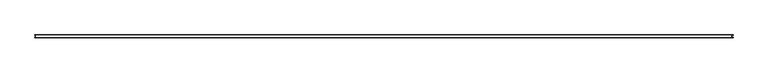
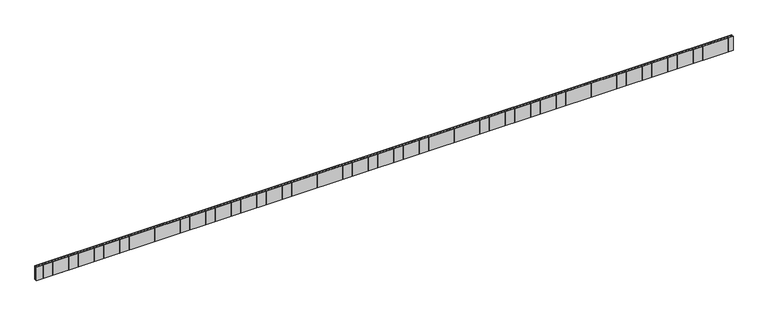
"""IFC4 building model written with IfcOpenShell, lengths in millimetres: proxy geometry, Durabond Generic Soffit Drainage Vent : Durabond Generic Soffit Drainage Vent."""

from ifc_helpers import new_model, si_unit, origin, origin_with_axes, place, context, project, spatial, polyline, outline, extrude, source, transform, mapped, element, save


def generic_models_47e8b319(model_context):
    return source(origin(), model_context, "Body", "SweptSolid", [
        extrude(outline(polyline([(-608.5771001, 0.79375), (-608.5771001, 3.96875), (-609.3708501, 3.96875), (-609.3708501, 4.7625), (609.3708501, 4.7625), (609.3708501, 3.96875), (607.4043986, 3.96875), (607.4043986, 0.79375), (609.3708501, 0.79375), (609.3708501, 0.0), (-609.3708501, 0.0), (-609.3708501, 0.79375), (-608.5771001, 0.79375)]), holes=[polyline([(-603.0029266, 3.96875), (-607.7654266, 3.96875), (-607.7654266, 0.79375), (-603.0029266, 0.79375), (-603.0029266, 3.96875)]), polyline([(-602.1912531, 3.96875), (-602.1912531, 0.79375), (-597.4287531, 0.79375), (-597.4287531, 3.96875), (-602.1912531, 3.96875)]), polyline([(-591.8545796, 3.96875), (-596.6170796, 3.96875), (-596.6170796, 0.79375), (-591.8545796, 0.79375), (-591.8545796, 3.96875)]), polyline([(-591.042906, 3.96875), (-591.042906, 0.79375), (-586.280406, 0.79375), (-586.280406, 3.96875), (-591.042906, 3.96875)]), polyline([(-580.7062325, 3.96875), (-585.4687325, 3.96875), (-585.4687325, 0.79375), (-580.7062325, 0.79375), (-580.7062325, 3.96875)]), polyline([(-579.894559, 3.96875), (-579.894559, 0.79375), (-575.132059, 0.79375), (-575.132059, 3.96875), (-579.894559, 3.96875)]), polyline([(-569.5578855, 3.96875), (-574.3203855, 3.96875), (-574.3203855, 0.79375), (-569.5578855, 0.79375), (-569.5578855, 3.96875)]), polyline([(-568.746212, 3.96875), (-568.746212, 0.79375), (-563.983712, 0.79375), (-563.983712, 3.96875), (-568.746212, 3.96875)]), polyline([(-558.4095385, 3.96875), (-563.1720385, 3.96875), (-563.1720385, 0.79375), (-558.4095385, 0.79375), (-558.4095385, 3.96875)]), polyline([(-557.597865, 3.96875), (-557.597865, 0.79375), (-552.835365, 0.79375), (-552.835365, 3.96875), (-557.597865, 3.96875)]), polyline([(-547.2611915, 3.96875), (-552.0236915, 3.96875), (-552.0236915, 0.79375), (-547.2611915, 0.79375), (-547.2611915, 3.96875)]), polyline([(-546.449518, 3.96875), (-546.449518, 0.79375), (-541.687018, 0.79375), (-541.687018, 3.96875), (-546.449518, 3.96875)]), polyline([(-536.1128445, 3.96875), (-540.8753445, 3.96875), (-540.8753445, 0.79375), (-536.1128445, 0.79375), (-536.1128445, 3.96875)]), polyline([(-535.3011709, 3.96875), (-535.3011709, 0.79375), (-530.5386709, 0.79375), (-530.5386709, 3.96875), (-535.3011709, 3.96875)]), polyline([(-524.9644974, 3.96875), (-529.7269974, 3.96875), (-529.7269974, 0.79375), (-524.9644974, 0.79375), (-524.9644974, 3.96875)]), polyline([(-524.1528239, 3.96875), (-524.1528239, 0.79375), (-519.3903239, 0.79375), (-519.3903239, 3.96875), (-524.1528239, 3.96875)]), polyline([(-513.8161504, 3.96875), (-518.5786504, 3.96875), (-518.5786504, 0.79375), (-513.8161504, 0.79375), (-513.8161504, 3.96875)]), polyline([(-513.0044769, 3.96875), (-513.0044769, 0.79375), (-508.2419769, 0.79375), (-508.2419769, 3.96875), (-513.0044769, 3.96875)]), polyline([(-502.6678034, 3.96875), (-507.4303034, 3.96875), (-507.4303034, 0.79375), (-502.6678034, 0.79375), (-502.6678034, 3.96875)]), polyline([(-501.8561299, 3.96875), (-501.8561299, 0.79375), (-497.0936299, 0.79375), (-497.0936299, 3.96875), (-501.8561299, 3.96875)]), polyline([(-491.5194564, 3.96875), (-496.2819564, 3.96875), (-496.2819564, 0.79375), (-491.5194564, 0.79375), (-491.5194564, 3.96875)]), polyline([(-490.7077829, 3.96875), (-490.7077829, 0.79375), (-485.9452829, 0.79375), (-485.9452829, 3.96875), (-490.7077829, 3.96875)]), polyline([(-480.3711094, 3.96875), (-485.1336094, 3.96875), (-485.1336094, 0.79375), (-480.3711094, 0.79375), (-480.3711094, 3.96875)]), polyline([(-479.5594358, 3.96875), (-479.5594358, 0.79375), (-474.7969358, 0.79375), (-474.7969358, 3.96875), (-479.5594358, 3.96875)]), polyline([(-469.2227623, 3.96875), (-473.9852623, 3.96875), (-473.9852623, 0.79375), (-469.2227623, 0.79375), (-469.2227623, 3.96875)]), polyline([(-468.4110888, 3.96875), (-468.4110888, 0.79375), (-463.6485888, 0.79375), (-463.6485888, 3.96875), (-468.4110888, 3.96875)]), polyline([(-458.0744153, 3.96875), (-462.8369153, 3.96875), (-462.8369153, 0.79375), (-458.0744153, 0.79375), (-458.0744153, 3.96875)]), polyline([(-457.2627418, 3.96875), (-457.2627418, 0.79375), (-452.5002418, 0.79375), (-452.5002418, 3.96875), (-457.2627418, 3.96875)]), polyline([(-446.9260683, 3.96875), (-451.6885683, 3.96875), (-451.6885683, 0.79375), (-446.9260683, 0.79375), (-446.9260683, 3.96875)]), polyline([(-446.1143948, 3.96875), (-446.1143948, 0.79375), (-441.3518948, 0.79375), (-441.3518948, 3.96875), (-446.1143948, 3.96875)]), polyline([(-435.7777213, 3.96875), (-440.5402213, 3.96875), (-440.5402213, 0.79375), (-435.7777213, 0.79375), (-435.7777213, 3.96875)]), polyline([(-434.9660478, 3.96875), (-434.9660478, 0.79375), (-430.2035478, 0.79375), (-430.2035478, 3.96875), (-434.9660478, 3.96875)]), polyline([(-424.6293743, 3.96875), (-429.3918743, 3.96875), (-429.3918743, 0.79375), (-424.6293743, 0.79375), (-424.6293743, 3.96875)]), polyline([(-423.8177007, 3.96875), (-423.8177007, 0.79375), (-419.0552007, 0.79375), (-419.0552007, 3.96875), (-423.8177007, 3.96875)]), polyline([(-413.4810272, 3.96875), (-418.2435272, 3.96875), (-418.2435272, 0.79375), (-413.4810272, 0.79375), (-413.4810272, 3.96875)]), polyline([(-412.6693537, 3.96875), (-412.6693537, 0.79375), (-407.9068537, 0.79375), (-407.9068537, 3.96875), (-412.6693537, 3.96875)]), polyline([(-402.3326802, 3.96875), (-407.0951802, 3.96875), (-407.0951802, 0.79375), (-402.3326802, 0.79375), (-402.3326802, 3.96875)]), polyline([(-401.5210067, 3.96875), (-401.5210067, 0.79375), (-396.7585067, 0.79375), (-396.7585067, 3.96875), (-401.5210067, 3.96875)]), polyline([(-391.1843332, 3.96875), (-395.9468332, 3.96875), (-395.9468332, 0.79375), (-391.1843332, 0.79375), (-391.1843332, 3.96875)]), polyline([(-390.3726597, 3.96875), (-390.3726597, 0.79375), (-385.6101597, 0.79375), (-385.6101597, 3.96875), (-390.3726597, 3.96875)]), polyline([(-380.0359862, 3.96875), (-384.7984862, 3.96875), (-384.7984862, 0.79375), (-380.0359862, 0.79375), (-380.0359862, 3.96875)]), polyline([(-379.2243127, 3.96875), (-379.2243127, 0.79375), (-374.4618127, 0.79375), (-374.4618127, 3.96875), (-379.2243127, 3.96875)]), polyline([(-368.8876392, 3.96875), (-373.6501392, 3.96875), (-373.6501392, 0.79375), (-368.8876392, 0.79375), (-368.8876392, 3.96875)]), polyline([(-368.0759656, 3.96875), (-368.0759656, 0.79375), (-363.3134656, 0.79375), (-363.3134656, 3.96875), (-368.0759656, 3.96875)]), polyline([(-357.7392921, 3.96875), (-362.5017921, 3.96875), (-362.5017921, 0.79375), (-357.7392921, 0.79375), (-357.7392921, 3.96875)]), polyline([(-356.9276186, 3.96875), (-356.9276186, 0.79375), (-352.1651186, 0.79375), (-352.1651186, 3.96875), (-356.9276186, 3.96875)]), polyline([(-346.5909451, 3.96875), (-351.3534451, 3.96875), (-351.3534451, 0.79375), (-346.5909451, 0.79375), (-346.5909451, 3.96875)]), polyline([(-345.7792716, 3.96875), (-345.7792716, 0.79375), (-341.0167716, 0.79375), (-341.0167716, 3.96875), (-345.7792716, 3.96875)]), polyline([(-335.4425981, 3.96875), (-340.2050981, 3.96875), (-340.2050981, 0.79375), (-335.4425981, 0.79375), (-335.4425981, 3.96875)]), polyline([(-334.6309246, 3.96875), (-334.6309246, 0.79375), (-329.8684246, 0.79375), (-329.8684246, 3.96875), (-334.6309246, 3.96875)]), polyline([(-324.2942511, 3.96875), (-329.0567511, 3.96875), (-329.0567511, 0.79375), (-324.2942511, 0.79375), (-324.2942511, 3.96875)]), polyline([(-323.4825776, 3.96875), (-323.4825776, 0.79375), (-318.7200776, 0.79375), (-318.7200776, 3.96875), (-323.4825776, 3.96875)]), polyline([(-313.1459041, 3.96875), (-317.9084041, 3.96875), (-317.9084041, 0.79375), (-313.1459041, 0.79375), (-313.1459041, 3.96875)]), polyline([(-312.3342305, 3.96875), (-312.3342305, 0.79375), (-307.5717305, 0.79375), (-307.5717305, 3.96875), (-312.3342305, 3.96875)]), polyline([(-301.997557, 3.96875), (-306.760057, 3.96875), (-306.760057, 0.79375), (-301.997557, 0.79375), (-301.997557, 3.96875)]), polyline([(-301.1858835, 3.96875), (-301.1858835, 0.79375), (-296.4233835, 0.79375), (-296.4233835, 3.96875), (-301.1858835, 3.96875)]), polyline([(-290.84921, 3.96875), (-295.61171, 3.96875), (-295.61171, 0.79375), (-290.84921, 0.79375), (-290.84921, 3.96875)]), polyline([(-290.0375365, 3.96875), (-290.0375365, 0.79375), (-285.2750365, 0.79375), (-285.2750365, 3.96875), (-290.0375365, 3.96875)]), polyline([(-279.700863, 3.96875), (-284.463363, 3.96875), (-284.463363, 0.79375), (-279.700863, 0.79375), (-279.700863, 3.96875)]), polyline([(-278.8891895, 3.96875), (-278.8891895, 0.79375), (-274.1266895, 0.79375), (-274.1266895, 3.96875), (-278.8891895, 3.96875)]), polyline([(-268.552516, 3.96875), (-273.315016, 3.96875), (-273.315016, 0.79375), (-268.552516, 0.79375), (-268.552516, 3.96875)]), polyline([(-267.7408425, 3.96875), (-267.7408425, 0.79375), (-262.9783425, 0.79375), (-262.9783425, 3.96875), (-267.7408425, 3.96875)]), polyline([(-257.404169, 3.96875), (-262.166669, 3.96875), (-262.166669, 0.79375), (-257.404169, 0.79375), (-257.404169, 3.96875)]), polyline([(-256.5924954, 3.96875), (-256.5924954, 0.79375), (-251.8299954, 0.79375), (-251.8299954, 3.96875), (-256.5924954, 3.96875)]), polyline([(-246.2558219, 3.96875), (-251.0183219, 3.96875), (-251.0183219, 0.79375), (-246.2558219, 0.79375), (-246.2558219, 3.96875)]), polyline([(-245.4441484, 3.96875), (-245.4441484, 0.79375), (-240.6816484, 0.79375), (-240.6816484, 3.96875), (-245.4441484, 3.96875)]), polyline([(-235.1074749, 3.96875), (-239.8699749, 3.96875), (-239.8699749, 0.79375), (-235.1074749, 0.79375), (-235.1074749, 3.96875)]), polyline([(-234.2958014, 3.96875), (-234.2958014, 0.79375), (-229.5333014, 0.79375), (-229.5333014, 3.96875), (-234.2958014, 3.96875)]), polyline([(-223.9591279, 3.96875), (-228.7216279, 3.96875), (-228.7216279, 0.79375), (-223.9591279, 0.79375), (-223.9591279, 3.96875)]), polyline([(-223.1474544, 3.96875), (-223.1474544, 0.79375), (-218.3849544, 0.79375), (-218.3849544, 3.96875), (-223.1474544, 3.96875)]), polyline([(-212.8107809, 3.96875), (-217.5732809, 3.96875), (-217.5732809, 0.79375), (-212.8107809, 0.79375), (-212.8107809, 3.96875)]), polyline([(-211.9991074, 3.96875), (-211.9991074, 0.79375), (-207.2366074, 0.79375), (-207.2366074, 3.96875), (-211.9991074, 3.96875)]), polyline([(-201.6624339, 3.96875), (-206.4249339, 3.96875), (-206.4249339, 0.79375), (-201.6624339, 0.79375), (-201.6624339, 3.96875)]), polyline([(-200.8507603, 3.96875), (-200.8507603, 0.79375), (-196.0882603, 0.79375), (-196.0882603, 3.96875), (-200.8507603, 3.96875)]), polyline([(-190.5140868, 3.96875), (-195.2765868, 3.96875), (-195.2765868, 0.79375), (-190.5140868, 0.79375), (-190.5140868, 3.96875)]), polyline([(-189.7024133, 3.96875), (-189.7024133, 0.79375), (-184.9399133, 0.79375), (-184.9399133, 3.96875), (-189.7024133, 3.96875)]), polyline([(-179.3657398, 3.96875), (-184.1282398, 3.96875), (-184.1282398, 0.79375), (-179.3657398, 0.79375), (-179.3657398, 3.96875)]), polyline([(-178.5540663, 3.96875), (-178.5540663, 0.79375), (-173.7915663, 0.79375), (-173.7915663, 3.96875), (-178.5540663, 3.96875)]), polyline([(-168.2173928, 3.96875), (-172.9798928, 3.96875), (-172.9798928, 0.79375), (-168.2173928, 0.79375), (-168.2173928, 3.96875)]), polyline([(-167.4057193, 3.96875), (-167.4057193, 0.79375), (-162.6432193, 0.79375), (-162.6432193, 3.96875), (-167.4057193, 3.96875)]), polyline([(-157.0690458, 3.96875), (-161.8315458, 3.96875), (-161.8315458, 0.79375), (-157.0690458, 0.79375), (-157.0690458, 3.96875)]), polyline([(-156.2573723, 3.96875), (-156.2573723, 0.79375), (-151.4948723, 0.79375), (-151.4948723, 3.96875), (-156.2573723, 3.96875)]), polyline([(-145.9206988, 3.96875), (-150.6831988, 3.96875), (-150.6831988, 0.79375), (-145.9206988, 0.79375), (-145.9206988, 3.96875)]), polyline([(-145.1090252, 3.96875), (-145.1090252, 0.79375), (-140.3465252, 0.79375), (-140.3465252, 3.96875), (-145.1090252, 3.96875)]), polyline([(-134.7723517, 3.96875), (-139.5348517, 3.96875), (-139.5348517, 0.79375), (-134.7723517, 0.79375), (-134.7723517, 3.96875)]), polyline([(-133.9606782, 3.96875), (-133.9606782, 0.79375), (-129.1981782, 0.79375), (-129.1981782, 3.96875), (-133.9606782, 3.96875)]), polyline([(-123.6240047, 3.96875), (-128.3865047, 3.96875), (-128.3865047, 0.79375), (-123.6240047, 0.79375), (-123.6240047, 3.96875)]), polyline([(-122.8123312, 3.96875), (-122.8123312, 0.79375), (-118.0498312, 0.79375), (-118.0498312, 3.96875), (-122.8123312, 3.96875)]), polyline([(-112.4756577, 3.96875), (-117.2381577, 3.96875), (-117.2381577, 0.79375), (-112.4756577, 0.79375), (-112.4756577, 3.96875)]), polyline([(-111.6639842, 3.96875), (-111.6639842, 0.79375), (-106.9014842, 0.79375), (-106.9014842, 3.96875), (-111.6639842, 3.96875)]), polyline([(-101.3273107, 3.96875), (-106.0898107, 3.96875), (-106.0898107, 0.79375), (-101.3273107, 0.79375), (-101.3273107, 3.96875)]), polyline([(-100.5156372, 3.96875), (-100.5156372, 0.79375), (-95.7531372, 0.79375), (-95.7531372, 3.96875), (-100.5156372, 3.96875)]), polyline([(-90.1789637, 3.96875), (-94.9414637, 3.96875), (-94.9414637, 0.79375), (-90.1789637, 0.79375), (-90.1789637, 3.96875)]), polyline([(-89.3672901, 3.96875), (-89.3672901, 0.79375), (-84.6047901, 0.79375), (-84.6047901, 3.96875), (-89.3672901, 3.96875)]), polyline([(-79.0306166, 3.96875), (-83.7931166, 3.96875), (-83.7931166, 0.79375), (-79.0306166, 0.79375), (-79.0306166, 3.96875)]), polyline([(-78.2189431, 3.96875), (-78.2189431, 0.79375), (-73.4564431, 0.79375), (-73.4564431, 3.96875), (-78.2189431, 3.96875)]), polyline([(-67.8822696, 3.96875), (-72.6447696, 3.96875), (-72.6447696, 0.79375), (-67.8822696, 0.79375), (-67.8822696, 3.96875)]), polyline([(-67.0705961, 3.96875), (-67.0705961, 0.79375), (-62.3080961, 0.79375), (-62.3080961, 3.96875), (-67.0705961, 3.96875)]), polyline([(-56.7339226, 3.96875), (-61.4964226, 3.96875), (-61.4964226, 0.79375), (-56.7339226, 0.79375), (-56.7339226, 3.96875)]), polyline([(-55.9222491, 3.96875), (-55.9222491, 0.79375), (-51.1597491, 0.79375), (-51.1597491, 3.96875), (-55.9222491, 3.96875)]), polyline([(-45.5855756, 3.96875), (-50.3480756, 3.96875), (-50.3480756, 0.79375), (-45.5855756, 0.79375), (-45.5855756, 3.96875)]), polyline([(-44.7739021, 3.96875), (-44.7739021, 0.79375), (-40.0114021, 0.79375), (-40.0114021, 3.96875), (-44.7739021, 3.96875)]), polyline([(-34.4372286, 3.96875), (-39.1997286, 3.96875), (-39.1997286, 0.79375), (-34.4372286, 0.79375), (-34.4372286, 3.96875)]), polyline([(-33.625555, 3.96875), (-33.625555, 0.79375), (-28.863055, 0.79375), (-28.863055, 3.96875), (-33.625555, 3.96875)]), polyline([(-23.2888815, 3.96875), (-28.0513815, 3.96875), (-28.0513815, 0.79375), (-23.2888815, 0.79375), (-23.2888815, 3.96875)]), polyline([(-22.477208, 3.96875), (-22.477208, 0.79375), (-17.714708, 0.79375), (-17.714708, 3.96875), (-22.477208, 3.96875)]), polyline([(-12.1405345, 3.96875), (-16.9030345, 3.96875), (-16.9030345, 0.79375), (-12.1405345, 0.79375), (-12.1405345, 3.96875)]), polyline([(-11.328861, 3.96875), (-11.328861, 0.79375), (-6.566361, 0.79375), (-6.566361, 3.96875), (-11.328861, 3.96875)]), polyline([(-0.9921875, 3.96875), (-5.7546875, 3.96875), (-5.7546875, 0.79375), (-0.9921875, 0.79375), (-0.9921875, 3.96875)]), polyline([(-0.180514, 3.96875), (-0.180514, 0.79375), (4.581986, 0.79375), (4.581986, 3.96875), (-0.180514, 3.96875)]), polyline([(10.1561595, 3.96875), (5.3936595, 3.96875), (5.3936595, 0.79375), (10.1561595, 0.79375), (10.1561595, 3.96875)]), polyline([(10.967833, 3.96875), (10.967833, 0.79375), (15.730333, 0.79375), (15.730333, 3.96875), (10.967833, 3.96875)]), polyline([(21.3045065, 3.96875), (16.5420065, 3.96875), (16.5420065, 0.79375), (21.3045065, 0.79375), (21.3045065, 3.96875)]), polyline([(22.11618, 3.96875), (22.11618, 0.79375), (26.87868, 0.79375), (26.87868, 3.96875), (22.11618, 3.96875)]), polyline([(32.4528536, 3.96875), (27.6903536, 3.96875), (27.6903536, 0.79375), (32.4528536, 0.79375), (32.4528536, 3.96875)]), polyline([(33.2645271, 3.96875), (33.2645271, 0.79375), (38.0270271, 0.79375), (38.0270271, 3.96875), (33.2645271, 3.96875)]), polyline([(43.6012006, 3.96875), (38.8387006, 3.96875), (38.8387006, 0.79375), (43.6012006, 0.79375), (43.6012006, 3.96875)]), polyline([(44.4128741, 3.96875), (44.4128741, 0.79375), (49.1753741, 0.79375), (49.1753741, 3.96875), (44.4128741, 3.96875)]), polyline([(54.7495476, 3.96875), (49.9870476, 3.96875), (49.9870476, 0.79375), (54.7495476, 0.79375), (54.7495476, 3.96875)]), polyline([(55.5612211, 3.96875), (55.5612211, 0.79375), (60.3237211, 0.79375), (60.3237211, 3.96875), (55.5612211, 3.96875)]), polyline([(65.8978946, 3.96875), (61.1353946, 3.96875), (61.1353946, 0.79375), (65.8978946, 0.79375), (65.8978946, 3.96875)]), polyline([(66.7095681, 3.96875), (66.7095681, 0.79375), (71.4720681, 0.79375), (71.4720681, 3.96875), (66.7095681, 3.96875)]), polyline([(77.0462416, 3.96875), (72.2837416, 3.96875), (72.2837416, 0.79375), (77.0462416, 0.79375), (77.0462416, 3.96875)]), polyline([(77.8579151, 3.96875), (77.8579151, 0.79375), (82.6204151, 0.79375), (82.6204151, 3.96875), (77.8579151, 3.96875)]), polyline([(88.1945887, 3.96875), (83.4320887, 3.96875), (83.4320887, 0.79375), (88.1945887, 0.79375), (88.1945887, 3.96875)]), polyline([(89.0062622, 3.96875), (89.0062622, 0.79375), (93.7687622, 0.79375), (93.7687622, 3.96875), (89.0062622, 3.96875)]), polyline([(99.3429357, 3.96875), (94.5804357, 3.96875), (94.5804357, 0.79375), (99.3429357, 0.79375), (99.3429357, 3.96875)]), polyline([(100.1546092, 3.96875), (100.1546092, 0.79375), (104.9171092, 0.79375), (104.9171092, 3.96875), (100.1546092, 3.96875)]), polyline([(110.4912827, 3.96875), (105.7287827, 3.96875), (105.7287827, 0.79375), (110.4912827, 0.79375), (110.4912827, 3.96875)]), polyline([(111.3029562, 3.96875), (111.3029562, 0.79375), (116.0654562, 0.79375), (116.0654562, 3.96875), (111.3029562, 3.96875)]), polyline([(121.6396297, 3.96875), (116.8771297, 3.96875), (116.8771297, 0.79375), (121.6396297, 0.79375), (121.6396297, 3.96875)]), polyline([(122.4513032, 3.96875), (122.4513032, 0.79375), (127.2138032, 0.79375), (127.2138032, 3.96875), (122.4513032, 3.96875)]), polyline([(132.7879767, 3.96875), (128.0254767, 3.96875), (128.0254767, 0.79375), (132.7879767, 0.79375), (132.7879767, 3.96875)]), polyline([(133.5996502, 3.96875), (133.5996502, 0.79375), (138.3621502, 0.79375), (138.3621502, 3.96875), (133.5996502, 3.96875)]), polyline([(143.9363238, 3.96875), (139.1738238, 3.96875), (139.1738238, 0.79375), (143.9363238, 0.79375), (143.9363238, 3.96875)]), polyline([(144.7479973, 3.96875), (144.7479973, 0.79375), (149.5104973, 0.79375), (149.5104973, 3.96875), (144.7479973, 3.96875)]), polyline([(155.0846708, 3.96875), (150.3221708, 3.96875), (150.3221708, 0.79375), (155.0846708, 0.79375), (155.0846708, 3.96875)]), polyline([(155.8963443, 3.96875), (155.8963443, 0.79375), (160.6588443, 0.79375), (160.6588443, 3.96875), (155.8963443, 3.96875)]), polyline([(166.2330178, 3.96875), (161.4705178, 3.96875), (161.4705178, 0.79375), (166.2330178, 0.79375), (166.2330178, 3.96875)]), polyline([(167.0446913, 3.96875), (167.0446913, 0.79375), (171.8071913, 0.79375), (171.8071913, 3.96875), (167.0446913, 3.96875)]), polyline([(177.3813648, 3.96875), (172.6188648, 3.96875), (172.6188648, 0.79375), (177.3813648, 0.79375), (177.3813648, 3.96875)]), polyline([(178.1930383, 3.96875), (178.1930383, 0.79375), (182.9555383, 0.79375), (182.9555383, 3.96875), (178.1930383, 3.96875)]), polyline([(188.5297118, 3.96875), (183.7672118, 3.96875), (183.7672118, 0.79375), (188.5297118, 0.79375), (188.5297118, 3.96875)]), polyline([(189.3413853, 3.96875), (189.3413853, 0.79375), (194.1038853, 0.79375), (194.1038853, 3.96875), (189.3413853, 3.96875)]), polyline([(199.6780589, 3.96875), (194.9155589, 3.96875), (194.9155589, 0.79375), (199.6780589, 0.79375), (199.6780589, 3.96875)]), polyline([(200.4897324, 3.96875), (200.4897324, 0.79375), (205.2522324, 0.79375), (205.2522324, 3.96875), (200.4897324, 3.96875)]), polyline([(210.8264059, 3.96875), (206.0639059, 3.96875), (206.0639059, 0.79375), (210.8264059, 0.79375), (210.8264059, 3.96875)]), polyline([(211.6380794, 3.96875), (211.6380794, 0.79375), (216.4005794, 0.79375), (216.4005794, 3.96875), (211.6380794, 3.96875)]), polyline([(221.9747529, 3.96875), (217.2122529, 3.96875), (217.2122529, 0.79375), (221.9747529, 0.79375), (221.9747529, 3.96875)]), polyline([(222.7864264, 3.96875), (222.7864264, 0.79375), (227.5489264, 0.79375), (227.5489264, 3.96875), (222.7864264, 3.96875)]), polyline([(233.1230999, 3.96875), (228.3605999, 3.96875), (228.3605999, 0.79375), (233.1230999, 0.79375), (233.1230999, 3.96875)]), polyline([(233.9347734, 3.96875), (233.9347734, 0.79375), (238.6972734, 0.79375), (238.6972734, 3.96875), (233.9347734, 3.96875)]), polyline([(244.2714469, 3.96875), (239.5089469, 3.96875), (239.5089469, 0.79375), (244.2714469, 0.79375), (244.2714469, 3.96875)]), polyline([(245.0831204, 3.96875), (245.0831204, 0.79375), (249.8456204, 0.79375), (249.8456204, 3.96875), (245.0831204, 3.96875)]), polyline([(255.419794, 3.96875), (250.657294, 3.96875), (250.657294, 0.79375), (255.419794, 0.79375), (255.419794, 3.96875)]), polyline([(256.2314675, 3.96875), (256.2314675, 0.79375), (260.9939675, 0.79375), (260.9939675, 3.96875), (256.2314675, 3.96875)]), polyline([(266.568141, 3.96875), (261.805641, 3.96875), (261.805641, 0.79375), (266.568141, 0.79375), (266.568141, 3.96875)]), polyline([(267.3798145, 3.96875), (267.3798145, 0.79375), (272.1423145, 0.79375), (272.1423145, 3.96875), (267.3798145, 3.96875)]), polyline([(277.716488, 3.96875), (272.953988, 3.96875), (272.953988, 0.79375), (277.716488, 0.79375), (277.716488, 3.96875)]), polyline([(278.5281615, 3.96875), (278.5281615, 0.79375), (283.2906615, 0.79375), (283.2906615, 3.96875), (278.5281615, 3.96875)]), polyline([(288.864835, 3.96875), (284.102335, 3.96875), (284.102335, 0.79375), (288.864835, 0.79375), (288.864835, 3.96875)]), polyline([(289.6765085, 3.96875), (289.6765085, 0.79375), (294.4390085, 0.79375), (294.4390085, 3.96875), (289.6765085, 3.96875)]), polyline([(300.013182, 3.96875), (295.250682, 3.96875), (295.250682, 0.79375), (300.013182, 0.79375), (300.013182, 3.96875)]), polyline([(300.8248555, 3.96875), (300.8248555, 0.79375), (305.5873555, 0.79375), (305.5873555, 3.96875), (300.8248555, 3.96875)]), polyline([(311.1615291, 3.96875), (306.3990291, 3.96875), (306.3990291, 0.79375), (311.1615291, 0.79375), (311.1615291, 3.96875)]), polyline([(311.9732026, 3.96875), (311.9732026, 0.79375), (316.7357026, 0.79375), (316.7357026, 3.96875), (311.9732026, 3.96875)]), polyline([(322.3098761, 3.96875), (317.5473761, 3.96875), (317.5473761, 0.79375), (322.3098761, 0.79375), (322.3098761, 3.96875)]), polyline([(323.1215496, 3.96875), (323.1215496, 0.79375), (327.8840496, 0.79375), (327.8840496, 3.96875), (323.1215496, 3.96875)]), polyline([(333.4582231, 3.96875), (328.6957231, 3.96875), (328.6957231, 0.79375), (333.4582231, 0.79375), (333.4582231, 3.96875)]), polyline([(334.2698966, 3.96875), (334.2698966, 0.79375), (339.0323966, 0.79375), (339.0323966, 3.96875), (334.2698966, 3.96875)]), polyline([(344.6065701, 3.96875), (339.8440701, 3.96875), (339.8440701, 0.79375), (344.6065701, 0.79375), (344.6065701, 3.96875)]), polyline([(345.4182436, 3.96875), (345.4182436, 0.79375), (350.1807436, 0.79375), (350.1807436, 3.96875), (345.4182436, 3.96875)]), polyline([(355.7549171, 3.96875), (350.9924171, 3.96875), (350.9924171, 0.79375), (355.7549171, 0.79375), (355.7549171, 3.96875)]), polyline([(356.5665906, 3.96875), (356.5665906, 0.79375), (361.3290906, 0.79375), (361.3290906, 3.96875), (356.5665906, 3.96875)]), polyline([(366.9032642, 3.96875), (362.1407642, 3.96875), (362.1407642, 0.79375), (366.9032642, 0.79375), (366.9032642, 3.96875)]), polyline([(367.7149377, 3.96875), (367.7149377, 0.79375), (372.4774377, 0.79375), (372.4774377, 3.96875), (367.7149377, 3.96875)]), polyline([(378.0516112, 3.96875), (373.2891112, 3.96875), (373.2891112, 0.79375), (378.0516112, 0.79375), (378.0516112, 3.96875)]), polyline([(378.8632847, 3.96875), (378.8632847, 0.79375), (383.6257847, 0.79375), (383.6257847, 3.96875), (378.8632847, 3.96875)]), polyline([(389.1999582, 3.96875), (384.4374582, 3.96875), (384.4374582, 0.79375), (389.1999582, 0.79375), (389.1999582, 3.96875)]), polyline([(390.0116317, 3.96875), (390.0116317, 0.79375), (394.7741317, 0.79375), (394.7741317, 3.96875), (390.0116317, 3.96875)]), polyline([(400.3483052, 3.96875), (395.5858052, 3.96875), (395.5858052, 0.79375), (400.3483052, 0.79375), (400.3483052, 3.96875)]), polyline([(401.1599787, 3.96875), (401.1599787, 0.79375), (405.9224787, 0.79375), (405.9224787, 3.96875), (401.1599787, 3.96875)]), polyline([(411.4966522, 3.96875), (406.7341522, 3.96875), (406.7341522, 0.79375), (411.4966522, 0.79375), (411.4966522, 3.96875)]), polyline([(412.3083257, 3.96875), (412.3083257, 0.79375), (417.0708257, 0.79375), (417.0708257, 3.96875), (412.3083257, 3.96875)]), polyline([(422.6449993, 3.96875), (417.8824993, 3.96875), (417.8824993, 0.79375), (422.6449993, 0.79375), (422.6449993, 3.96875)]), polyline([(423.4566728, 3.96875), (423.4566728, 0.79375), (428.2191728, 0.79375), (428.2191728, 3.96875), (423.4566728, 3.96875)]), polyline([(433.7933463, 3.96875), (429.0308463, 3.96875), (429.0308463, 0.79375), (433.7933463, 0.79375), (433.7933463, 3.96875)]), polyline([(434.6050198, 3.96875), (434.6050198, 0.79375), (439.3675198, 0.79375), (439.3675198, 3.96875), (434.6050198, 3.96875)]), polyline([(444.9416933, 3.96875), (440.1791933, 3.96875), (440.1791933, 0.79375), (444.9416933, 0.79375), (444.9416933, 3.96875)]), polyline([(445.7533668, 3.96875), (445.7533668, 0.79375), (450.5158668, 0.79375), (450.5158668, 3.96875), (445.7533668, 3.96875)]), polyline([(456.0900403, 3.96875), (451.3275403, 3.96875), (451.3275403, 0.79375), (456.0900403, 0.79375), (456.0900403, 3.96875)]), polyline([(456.9017138, 3.96875), (456.9017138, 0.79375), (461.6642138, 0.79375), (461.6642138, 3.96875), (456.9017138, 3.96875)]), polyline([(467.2383873, 3.96875), (462.4758873, 3.96875), (462.4758873, 0.79375), (467.2383873, 0.79375), (467.2383873, 3.96875)]), polyline([(468.0500608, 3.96875), (468.0500608, 0.79375), (472.8125608, 0.79375), (472.8125608, 3.96875), (468.0500608, 3.96875)]), polyline([(478.3867344, 3.96875), (473.6242344, 3.96875), (473.6242344, 0.79375), (478.3867344, 0.79375), (478.3867344, 3.96875)]), polyline([(479.1984079, 3.96875), (479.1984079, 0.79375), (483.9609079, 0.79375), (483.9609079, 3.96875), (479.1984079, 3.96875)]), polyline([(489.5350814, 3.96875), (484.7725814, 3.96875), (484.7725814, 0.79375), (489.5350814, 0.79375), (489.5350814, 3.96875)]), polyline([(490.3467549, 3.96875), (490.3467549, 0.79375), (495.1092549, 0.79375), (495.1092549, 3.96875), (490.3467549, 3.96875)]), polyline([(500.6834284, 3.96875), (495.9209284, 3.96875), (495.9209284, 0.79375), (500.6834284, 0.79375), (500.6834284, 3.96875)]), polyline([(501.4951019, 3.96875), (501.4951019, 0.79375), (506.2576019, 0.79375), (506.2576019, 3.96875), (501.4951019, 3.96875)]), polyline([(511.8317754, 3.96875), (507.0692754, 3.96875), (507.0692754, 0.79375), (511.8317754, 0.79375), (511.8317754, 3.96875)]), polyline([(512.6434489, 3.96875), (512.6434489, 0.79375), (517.4059489, 0.79375), (517.4059489, 3.96875), (512.6434489, 3.96875)]), polyline([(522.9801224, 3.96875), (518.2176224, 3.96875), (518.2176224, 0.79375), (522.9801224, 0.79375), (522.9801224, 3.96875)]), polyline([(523.7917959, 3.96875), (523.7917959, 0.79375), (528.5542959, 0.79375), (528.5542959, 3.96875), (523.7917959, 3.96875)]), polyline([(534.1284695, 3.96875), (529.3659695, 3.96875), (529.3659695, 0.79375), (534.1284695, 0.79375), (534.1284695, 3.96875)]), polyline([(534.940143, 3.96875), (534.940143, 0.79375), (539.702643, 0.79375), (539.702643, 3.96875), (534.940143, 3.96875)]), polyline([(545.2768165, 3.96875), (540.5143165, 3.96875), (540.5143165, 0.79375), (545.2768165, 0.79375), (545.2768165, 3.96875)]), polyline([(546.08849, 3.96875), (546.08849, 0.79375), (550.85099, 0.79375), (550.85099, 3.96875), (546.08849, 3.96875)]), polyline([(556.4251635, 3.96875), (551.6626635, 3.96875), (551.6626635, 0.79375), (556.4251635, 0.79375), (556.4251635, 3.96875)]), polyline([(557.236837, 3.96875), (557.236837, 0.79375), (561.999337, 0.79375), (561.999337, 3.96875), (557.236837, 3.96875)]), polyline([(567.5735105, 3.96875), (562.8110105, 3.96875), (562.8110105, 0.79375), (567.5735105, 0.79375), (567.5735105, 3.96875)]), polyline([(568.385184, 3.96875), (568.385184, 0.79375), (573.147684, 0.79375), (573.147684, 3.96875), (568.385184, 3.96875)]), polyline([(578.7218575, 3.96875), (573.9593575, 3.96875), (573.9593575, 0.79375), (578.7218575, 0.79375), (578.7218575, 3.96875)]), polyline([(579.533531, 3.96875), (579.533531, 0.79375), (584.296031, 0.79375), (584.296031, 3.96875), (579.533531, 3.96875)]), polyline([(589.8702046, 3.96875), (585.1077046, 3.96875), (585.1077046, 0.79375), (589.8702046, 0.79375), (589.8702046, 3.96875)]), polyline([(590.6818781, 3.96875), (590.6818781, 0.79375), (595.4443781, 0.79375), (595.4443781, 3.96875), (590.6818781, 3.96875)]), polyline([(601.0185516, 3.96875), (596.2560516, 3.96875), (596.2560516, 0.79375), (601.0185516, 0.79375), (601.0185516, 3.96875)]), polyline([(601.8302251, 3.96875), (601.8302251, 0.79375), (606.5927251, 0.79375), (606.5927251, 3.96875), (601.8302251, 3.96875)])]), origin_with_axes(), (0.0, 0.0, 1.0), 25.4),
    ])


if __name__ == "__main__":
    model = new_model("IFC4")
    model_context = context("Model", 3, world=origin())
    ifc_project = project(units=[si_unit("LENGTHUNIT", "METRE", prefix="MILLI")], contexts=[model_context])
    site = spatial("IfcSite", under=ifc_project)
    building = spatial("IfcBuilding", under=site)
    placement = place(None, origin())
    generic_models_shape = generic_models_47e8b319(model_context)
    element("IfcBuildingElementProxy", 1, Name="Durabond Generic Soffit Drainage Vent : Durabond Generic Soffit Drainage Vent", ObjectType="Durabond Generic Soffit Drainage Vent : Durabond Generic Soffit Drainage Vent", at=placement, inside=building, context=model_context, shape_type="MappedRepresentation", body=[
        mapped(generic_models_shape, transform((0.0, 0.0, 0.0), x_axis=(1.0, 0.0, 0.0), y_axis=(0.0, 1.0, 0.0), z_axis=(0.0, 0.0, 1.0))),
    ])
    save(model, "model.ifc")
